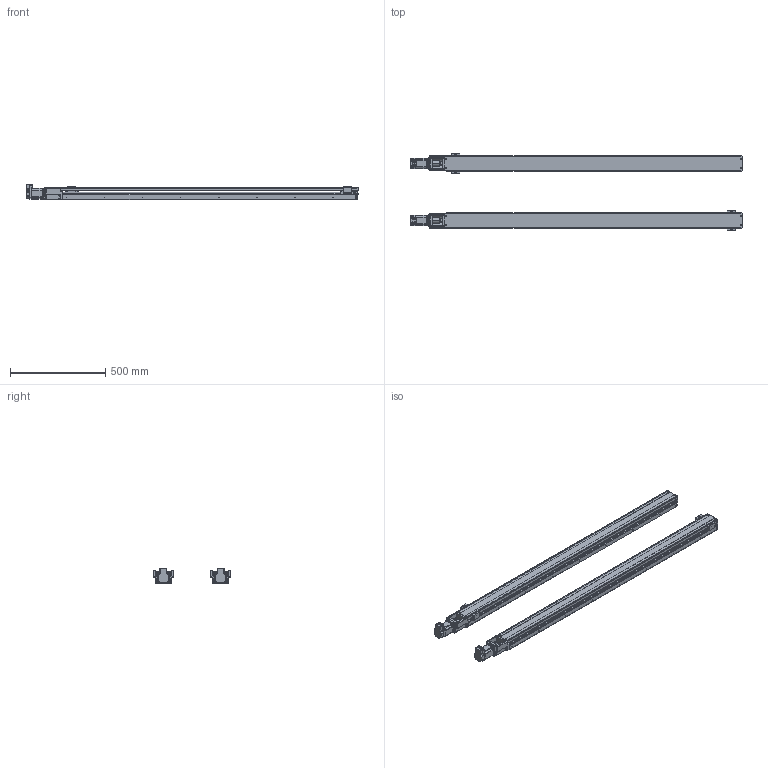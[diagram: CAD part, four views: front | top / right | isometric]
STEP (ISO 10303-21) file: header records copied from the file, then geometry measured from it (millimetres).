
FILE_DESCRIPTION(('STEP AP214'),'1');
FILE_NAME('D:\仕事\図面\SCKR6\tmp0.STEP',' ',(' '),(' '),'XStep 1.0',' ',' ');
FILE_SCHEMA(('automotive_design'));
Length unit declared in the file: millimetre
Bounding box: 1745.01 x 404 x 82.36 mm (x, y, z)
Volume: 7285245.9 mm3; surface area: 1994550.3 mm2
Topology: 116 solids, 116 shells, 4470 faces, 10936 edges, 6714 vertices
Faces by surface type: cylinder 1928, plane 1376, torus 856, bspline 186, cone 92, sphere 32
Entity records: 182347 total; most frequent: CARTESIAN_POINT 34928, DIRECTION 25130, ORIENTED_EDGE 21744, EDGE_CURVE 10872, AXIS2_PLACEMENT_3D 10020, VERTEX_POINT 6714, CIRCLE 5342, LINE 5090
